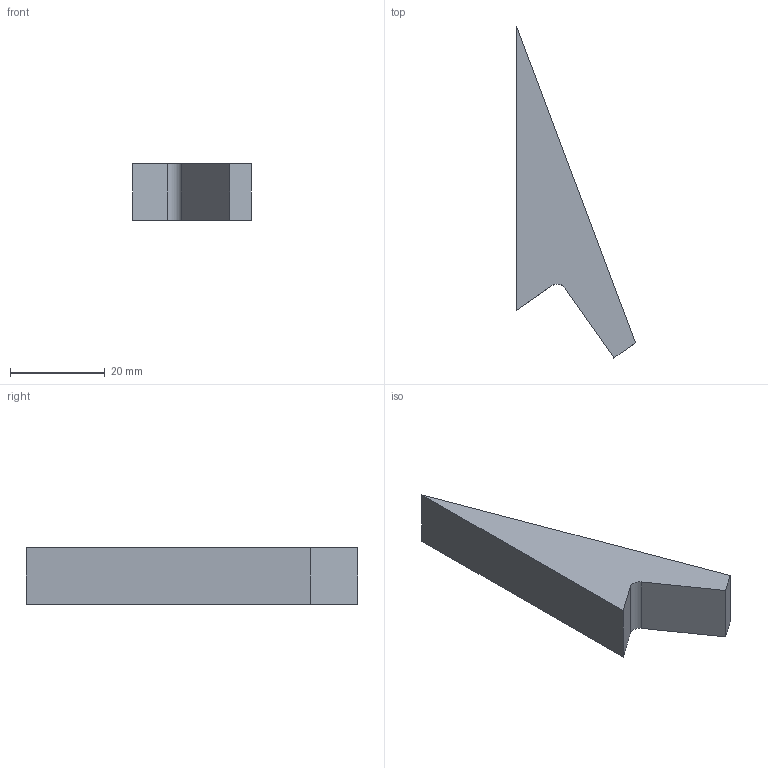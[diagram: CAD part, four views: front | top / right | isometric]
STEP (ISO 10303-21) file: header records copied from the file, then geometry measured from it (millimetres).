
FILE_DESCRIPTION(('Open CASCADE Model'),'2;1');
FILE_NAME('Open CASCADE Shape Model','2026-10-15T15:10:11',('Author'),( 'Open CASCADE'),'Open CASCADE STEP processor 8.0','Open CASCADE 8.0' ,'Unknown');
FILE_SCHEMA(('AUTOMOTIVE_DESIGN { 1 0 10303 214 1 1 1 1 }'));
Length unit declared in the file: millimetre
Products named in the file (1): U05_CARTELA_30x80x12_P05_CARA_ZANCA_211_JUNTA_63 244
Bounding box: 25.09 x 70.09 x 12 mm (x, y, z)
Volume: 8386.9 mm3; surface area: 3405.2 mm2
Topology: 1 solids, 1 shells, 8 faces, 18 edges, 12 vertices
Faces by surface type: plane 7, cylinder 1
Entity records: 456 total; most frequent: CARTESIAN_POINT 105, DIRECTION 54, ORIENTED_EDGE 36, PCURVE 36, DEFINITIONAL_REPRESENTATION 36, LINE 32, VECTOR 32, EDGE_CURVE 18
